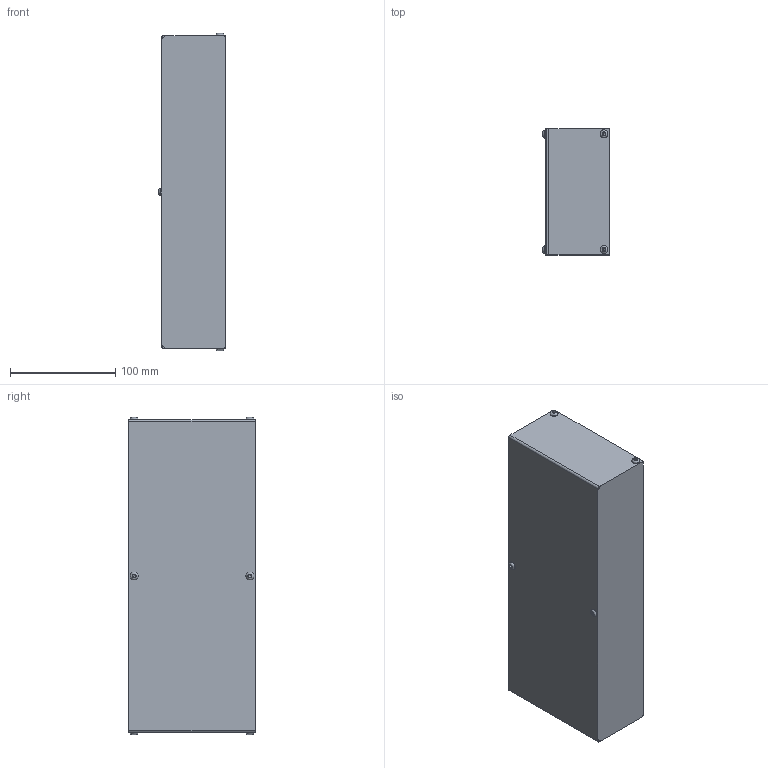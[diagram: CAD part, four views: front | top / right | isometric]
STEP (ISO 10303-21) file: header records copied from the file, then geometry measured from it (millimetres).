
FILE_DESCRIPTION(/* description */ (''),/* implementation_level */ '2;1');
FILE_NAME(/* name */ 'X:\VIRI ZA WEB\CAD DATOTEKE\LINEARNE ENOTE UNIMOTION\DODATNA OPREMA ZA LINEARNE ENOTE\STRANSKI POGONI\CTV-MTV\CTV 145-MTV 80\MSD CTV 145 T2 2 72 X 72\izvoz\MSD CTV 145 T2 2 72 X 72.stp',/* time_stamp */ '2016-06-06T13:39:41+02:00',/* author */ ('Hypex'),/* organization */ ('Hypex'),/* preprocessor_version */ 'ST-DEVELOPER v16.1',/* originating_system */ 'Autodesk Inventor 2016',/* authorisation */ '');
FILE_SCHEMA (('AUTOMOTIVE_DESIGN { 1 0 10303 214 3 1 1 }'));
Length unit declared in the file: millimetre
Products named in the file (1): MSD CTV 145 T2 2 72 X 72
Bounding box: 63.2 x 120 x 301.4 mm (x, y, z)
Volume: 2140640 mm3; surface area: 129025.7 mm2
Topology: 1 solids, 13 shells, 190 faces, 472 edges, 311 vertices
Faces by surface type: plane 109, cylinder 49, cone 20, bspline 6, torus 6
Full cylindrical faces by diameter (mm): 3.242 x4, 4 x6, 5 x6, 6.2 x4, 7.6 x6, 30 x1
Entity records: 5423 total; most frequent: CARTESIAN_POINT 1097, DIRECTION 850, ORIENTED_EDGE 776, EDGE_CURVE 388, AXIS2_PLACEMENT_3D 319, VERTEX_POINT 278, EDGE_LOOP 260, LINE 212
